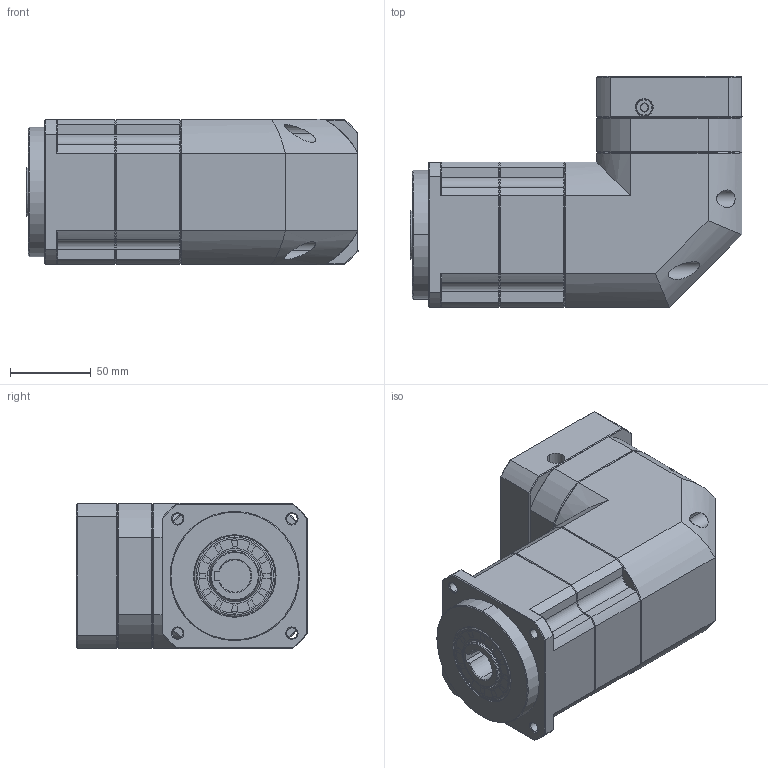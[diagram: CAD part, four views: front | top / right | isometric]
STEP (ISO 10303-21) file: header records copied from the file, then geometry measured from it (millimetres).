
FILE_DESCRIPTION (( 'STEP AP214' ), '1' );
FILE_NAME ('ZPBR090-K20-L2-P1-19-70-90-M6.step', '2024-06-07T18:40:58', ( 'Windows 蚚誧' ), ( 'Organization' ), 'SwSTEP 2.0', 'SolidWorks 2016', '' );
FILE_SCHEMA (( 'AUTOMOTIVE_DESIGN' ));
Length unit declared in the file: millimetre
Products named in the file (1): ZPBR090-K20-L2-P1-19-70-90-M6
Bounding box: 205.5 x 143 x 90 mm (x, y, z)
Surface area: 131475.9 mm2 (no closed solid volume)
Topology: 0 solids, 33 shells, 1870 faces, 4923 edges, 3140 vertices
Faces by surface type: plane 1005, bspline 368, cone 258, cylinder 224, torus 15
Entity records: 85420 total; most frequent: CARTESIAN_POINT 38446, ORIENTED_EDGE 9825, DIRECTION 7699, EDGE_CURVE 4923, VECTOR 3287, LINE 3287, VERTEX_POINT 3140, AXIS2_PLACEMENT_3D 2206
